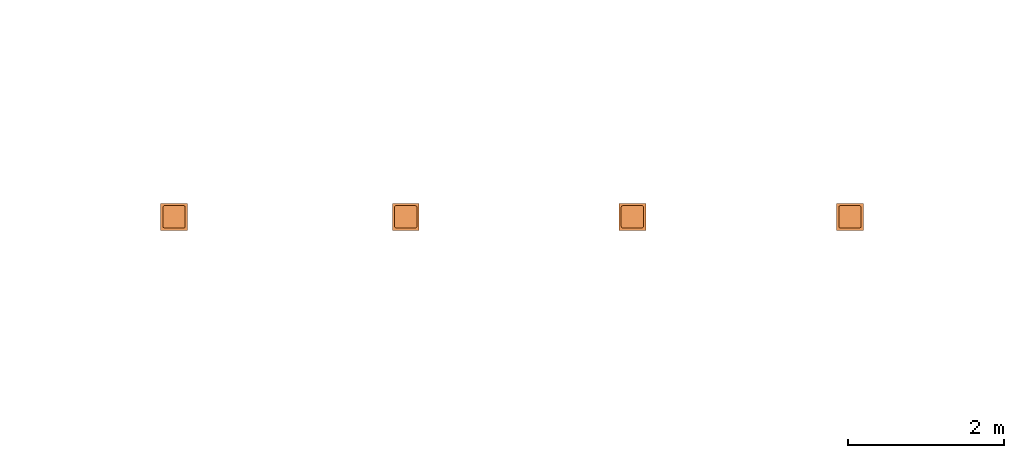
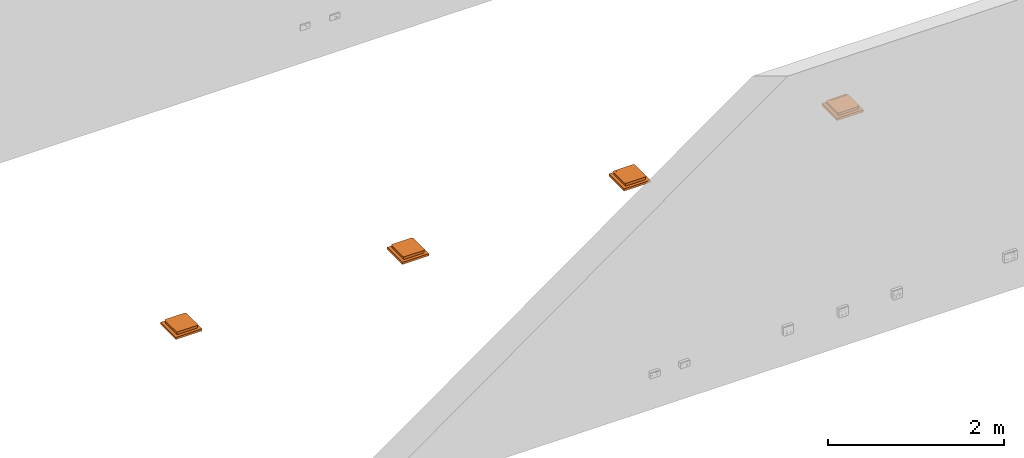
# One storey, part 73 of 197: 4 proxies.
"""IFC2X3 building model written with IfcOpenShell, lengths in metres."""

import ifcopenshell
import ifcopenshell.guid

model = None  # the IFC model being written
_history = None  # IfcOwnerHistory: only IFC2X3 demands one
_inside = {}  # id of a spatial element -> (the spatial element, [elements in it])
_under = {}  # id of a project, library or spatial element -> (it, [spatial elements below it])
_declared = {}  # id of a project -> (the project, [libraries it declares])
_typed = {}  # id of a type object -> (the type object, [elements of that type])
_made_of = {}  # id of a material, layer set ... -> (it, [elements and type objects made of it])


def new_model(schema):
    """Start an empty IFC model of exactly this schema.

    Asked for "IFC4X3", IfcOpenShell would pick the latest addendum, in which some entities
    have other attributes; the version numbers below select the first issue.
    IFC2X3 requires an IfcOwnerHistory on every rooted entity: one is made here for all.
    """
    global model, _history
    if schema == "IFC4X3":
        model = ifcopenshell.file(schema_version=(4, 3, 0, 0))
    else:
        model = ifcopenshell.file(schema=schema)
    _inside.clear()
    _under.clear()
    _declared.clear()
    _typed.clear()
    _made_of.clear()
    _history = None
    if model.schema == "IFC2X3":
        org = make("IfcOrganization", Name="unknown")
        user = make(
            "IfcPersonAndOrganization",
            ThePerson=make("IfcPerson", FamilyName="unknown"),
            TheOrganization=org,
        )
        app = make(
            "IfcApplication",
            ApplicationDeveloper=org,
            Version="unknown",
            ApplicationFullName="unknown",
            ApplicationIdentifier="unknown",
        )
        _history = make(
            "IfcOwnerHistory",
            OwningUser=user,
            OwningApplication=app,
            ChangeAction="ADDED",
            CreationDate=0,
        )
    return model


def make(cls, **values):
    """One entity of the class cls with the attributes given. An attribute that is None is left unset."""
    return model.create_entity(
        cls, **{name: value for name, value in values.items() if value is not None}
    )


def entity(cls, *values):
    """Any entity or typed value of the class cls, its attributes in the order of the schema. None: left unset."""
    e = model.create_entity(cls)
    for i, value in enumerate(values):
        if value is not None:
            e[i] = value
    return e


def rooted(cls, **values):
    """An entity with a GlobalId (a new one), such as an element, a storey or a relation."""
    return make(cls, GlobalId=ifcopenshell.guid.new(), OwnerHistory=_history, **values)


def si_unit(unit_type, name, prefix=None):
    """IfcSIUnit, for example si_unit("LENGTHUNIT", "METRE", prefix="MILLI")."""
    return make("IfcSIUnit", UnitType=unit_type, Prefix=prefix, Name=name)


def converted_unit(unit_type, name, factor, base, dimensions=None, offset=None):
    """IfcConversionBasedUnit, such as the inch: factor (a typed value) times the base unit."""
    return make(
        "IfcConversionBasedUnit"
        if offset is None
        else "IfcConversionBasedUnitWithOffset",
        ConversionOffset=offset,
        Dimensions=None
        if dimensions is None
        else entity("IfcDimensionalExponents", *dimensions),
        UnitType=unit_type,
        Name=name,
        ConversionFactor=make(
            "IfcMeasureWithUnit", ValueComponent=factor, UnitComponent=base
        ),
    )


def assignment(units):
    """IfcUnitAssignment: the units of a project."""
    return None if units is None else make("IfcUnitAssignment", Units=units)


def point(xyz):
    """IfcCartesianPoint."""
    return None if xyz is None else make("IfcCartesianPoint", Coordinates=xyz)


def direction(xyz):
    """IfcDirection."""
    return None if xyz is None else make("IfcDirection", DirectionRatios=xyz)


def frame(location, z_axis=None, x_axis=None):
    """IfcAxis2Placement3D, a coordinate frame: its origin and axes. An axis left out is left unset."""
    return make(
        "IfcAxis2Placement3D",
        Location=point(location),
        Axis=direction(z_axis),
        RefDirection=direction(x_axis),
    )


def frame_2d(location, x_axis=None):
    """IfcAxis2Placement2D, a coordinate frame in the plane: its origin and x axis."""
    return make(
        "IfcAxis2Placement2D", Location=point(location), RefDirection=direction(x_axis)
    )


def origin():
    """The frame at (0, 0, 0) with its axes left unset."""
    return frame((0.0, 0.0, 0.0))


def place(relative_to, where):
    """IfcLocalPlacement: puts the frame where relative to a parent placement (None: the world)."""
    return make(
        "IfcLocalPlacement", PlacementRelTo=relative_to, RelativePlacement=where
    )


def context(
    kind, dimensions, precision=None, world=None, true_north=None, identifier=None
):
    """IfcGeometricRepresentationContext, for example the 3D "Model" context."""
    return make(
        "IfcGeometricRepresentationContext",
        ContextIdentifier=identifier,
        ContextType=kind,
        CoordinateSpaceDimension=dimensions,
        Precision=precision,
        WorldCoordinateSystem=world,
        TrueNorth=true_north,
    )


def subcontext(parent, identifier, kind, view, scale=None):
    """IfcGeometricRepresentationSubContext, for example "Body" below "Model"."""
    return make(
        "IfcGeometricRepresentationSubContext",
        ContextIdentifier=identifier,
        ContextType=kind,
        ParentContext=parent,
        TargetScale=scale,
        TargetView=view,
    )


def project(units=None, contexts=None):
    """IfcProject with its units and contexts."""
    return rooted(
        "IfcProject",
        Name="project",
        RepresentationContexts=contexts,
        UnitsInContext=assignment(units),
    )


def spatial(cls, under=None, at=None, **own):
    """A site, building, storey or space (cls), placed at a placement, below another one or the project."""
    s = rooted(cls, ObjectPlacement=at, **own)
    if under is not None:
        _under.setdefault(under.id(), (under, []))[1].append(s)
    return s


def polyline(points):
    """IfcPolyline through the points."""
    return make("IfcPolyline", Points=[point(p) for p in points])


def circle_curve(where, radius):
    """IfcCircle in the frame where."""
    return make("IfcCircle", Position=where, Radius=radius)


def parameter(value):
    """IfcParameterValue: where a trimmed curve begins or ends, as a parameter of its basis curve."""
    return model.create_entity("IfcParameterValue", value)


def trimmed(basis, trim1, trim2, sense, master):
    """IfcTrimmedCurve: the piece of a basis curve between two trims."""
    return make(
        "IfcTrimmedCurve",
        BasisCurve=basis,
        Trim1=trim1,
        Trim2=trim2,
        SenseAgreement=sense,
        MasterRepresentation=master,
    )


def segment(curve, same_sense, transition):
    """IfcCompositeCurveSegment."""
    return make(
        "IfcCompositeCurveSegment",
        Transition=transition,
        SameSense=same_sense,
        ParentCurve=curve,
    )


def composite_curve(segments, self_intersect=None):
    """IfcCompositeCurve: segments joined end to end."""
    return make("IfcCompositeCurve", Segments=segments, SelfIntersect=self_intersect)


def profile(cls, at=None, kind="AREA", **sizes):
    """A parametric profile (cls). Its sizes go by their IFC names, for example OverallWidth=200.0."""
    return make(cls, ProfileType=kind, Position=at, **sizes)


def rectangle(**sizes):
    """IfcRectangleProfileDef."""
    return profile("IfcRectangleProfileDef", **sizes)


def outline(outer, holes=None, kind="AREA"):
    """IfcArbitraryClosedProfileDef: a profile drawn as a closed curve; with holes, ...WithVoids."""
    if holes is None:
        return make("IfcArbitraryClosedProfileDef", ProfileType=kind, OuterCurve=outer)
    return make(
        "IfcArbitraryProfileDefWithVoids",
        ProfileType=kind,
        OuterCurve=outer,
        InnerCurves=holes,
    )


def extrude(swept, where, along, depth):
    """IfcExtrudedAreaSolid: the profile swept, set in the frame where, extruded along a direction by depth."""
    return make(
        "IfcExtrudedAreaSolid",
        SweptArea=swept,
        Position=where,
        ExtrudedDirection=direction(along),
        Depth=depth,
    )


def shape(context_of_items, identifier, shape_type, items):
    """IfcShapeRepresentation: the items that make up one representation, for example the "Body"."""
    return make(
        "IfcShapeRepresentation",
        ContextOfItems=context_of_items,
        RepresentationIdentifier=identifier,
        RepresentationType=shape_type,
        Items=items,
    )


def source(mapping_origin, context_of_items, identifier, shape_type, items):
    """IfcRepresentationMap: a shape defined once, which mapped items show again and again."""
    return make(
        "IfcRepresentationMap",
        MappingOrigin=mapping_origin,
        MappedRepresentation=shape(context_of_items, identifier, shape_type, items),
    )


def transform(
    local_origin,
    x_axis=None,
    y_axis=None,
    z_axis=None,
    scale=None,
    scale2=None,
    scale3=None,
    uniform=True,
):
    """IfcCartesianTransformationOperator3D, or its non-uniform kind. x_axis, y_axis, z_axis: its Axis1, 2, 3."""
    if uniform:
        return make(
            "IfcCartesianTransformationOperator3D",
            Axis1=direction(x_axis),
            Axis2=direction(y_axis),
            LocalOrigin=point(local_origin),
            Scale=scale,
            Axis3=direction(z_axis),
        )
    return make(
        "IfcCartesianTransformationOperator3DnonUniform",
        Axis1=direction(x_axis),
        Axis2=direction(y_axis),
        LocalOrigin=point(local_origin),
        Scale=scale,
        Axis3=direction(z_axis),
        Scale2=scale2,
        Scale3=scale3,
    )


def mapped(mapping_source, mapping_target):
    """IfcMappedItem: shows the shape of a source again, moved by a transform."""
    return make(
        "IfcMappedItem", MappingSource=mapping_source, MappingTarget=mapping_target
    )


def material(Name=None, Category=None):
    """IfcMaterial."""
    return make("IfcMaterial", Name=Name, Category=Category)


def material_list(materials):
    """IfcMaterialList."""
    return make("IfcMaterialList", Materials=materials)


def made_of(thing, what):
    """Note that an element or type object is made of a material, layer set ...; save() writes the relation."""
    if what is not None:
        _made_of.setdefault(what.id(), (what, []))[1].append(thing)
    return thing


def type_object(cls, material=None, **own):
    """A type object (cls), such as IfcWallType, which elements share."""
    return made_of(rooted(cls, **own), material)


def type_shapes(of_type, sources):
    """Give a type object the sources (RepresentationMaps) that its elements show as mapped items."""
    of_type.RepresentationMaps = sources


def element(
    cls,
    number,
    at=None,
    inside=None,
    cuts=None,
    type_object=None,
    material=None,
    context=None,
    identifier="Body",
    shape_type=None,
    held_by="IfcProductDefinitionShape",
    body=None,
    shapes=None,
    **own,
):
    """One element of the class cls, such as IfcWall. Its Tag is "e" and its number.

    at: its placement. inside: the storey or other place that contains it. cuts: it is an
    opening in that element (IfcRelVoidsElement). A single representation is given by context,
    identifier, shape_type and body (its items); several are given by shapes. held_by: the class
    of the entity that holds the representations. save() writes the other relations.
    """
    e = rooted(cls, Tag="e%d" % number, ObjectPlacement=at, **own)
    if body is not None:
        shapes = [shape(context, identifier, shape_type, body)]
    if shapes is not None:
        e.Representation = make(held_by, Representations=shapes)
    if inside is not None:
        _inside.setdefault(inside.id(), (inside, []))[1].append(e)
    if cuts is not None:
        rooted(
            "IfcRelVoidsElement", RelatingBuildingElement=cuts, RelatedOpeningElement=e
        )
    if type_object is not None:
        _typed.setdefault(type_object.id(), (type_object, []))[1].append(e)
    return made_of(e, material)


def aggregate(whole, parts):
    """IfcRelAggregates: a whole, such as a stair, and the parts it consists of."""
    return rooted("IfcRelAggregates", RelatingObject=whole, RelatedObjects=parts)


def save(model, path):
    """Write the relations noted so far, then the file.

    IfcRelAggregates (storeys below a building ...), IfcRelContainedInSpatialStructure (elements
    in a storey), IfcRelDefinesByType, IfcRelAssociatesMaterial and IfcRelDeclares: one each for
    every whole, place, type object, material and project.
    """
    for whole, parts in _under.values():
        aggregate(whole, parts)
    for where, things in _inside.values():
        rooted(
            "IfcRelContainedInSpatialStructure",
            RelatedElements=things,
            RelatingStructure=where,
        )
    for kind, things in _typed.values():
        rooted("IfcRelDefinesByType", RelatedObjects=things, RelatingType=kind)
    for what, things in _made_of.values():
        rooted("IfcRelAssociatesMaterial", RelatedObjects=things, RelatingMaterial=what)
    for by, libraries in _declared.values():
        rooted("IfcRelDeclares", RelatingContext=by, RelatedDefinitions=libraries)
    model.write(path)


model = new_model("IFC2X3")

# Units and contexts
model_context = context("Model", 3, precision=1e-05, world=origin(), true_north=direction((6.123031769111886e-17, 1.0)))
body_context = subcontext(model_context, "Body", "Model", "MODEL_VIEW")
ifc_project = project(units=[si_unit("LENGTHUNIT", "METRE"), converted_unit("PLANEANGLEUNIT", "DEGREE", entity("IfcPlaneAngleMeasure", 0.017453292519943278), si_unit("PLANEANGLEUNIT", "RADIAN"), dimensions=[0, 0, 0, 0, 0, 0, 0]), si_unit("AREAUNIT", "SQUARE_METRE")], contexts=[model_context])

# Site, building, storey
site_placement = place(None, origin())
site = spatial("IfcSite", under=ifc_project, at=site_placement, Name="Default", CompositionType="ELEMENT")
building_placement = place(site_placement, origin())
building = spatial("IfcBuilding", under=site, at=building_placement, CompositionType="ELEMENT")
storey_placement = place(building_placement, origin())
storey = spatial("IfcBuildingStorey", under=building, at=storey_placement, Name="Niveau 0", CompositionType="ELEMENT", Elevation=0.0)

# Proxies
ifc_material_1 = material(Name="<Unnamed>")
ifc_material_2 = material(Name="Legrand - Inox")
ifc_material_list = material_list([ifc_material_1, ifc_material_2])
building_element_proxy_type_1 = type_object("IfcBuildingElementProxyType", Name="Boitier sol 4x4 modules:4PCN+4PCO+4RJ+1HDMI+1USB", PredefinedType="NOTDEFINED", material=ifc_material_list)
shared_shape_1 = source(origin(), body_context, "Body", "SweptSolid", [
    extrude(rectangle(XDim=0.34600000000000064, YDim=0.3460000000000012, at=frame_2d((0.0, 1.3877787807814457e-17), x_axis=(1.0, 0.0))), frame((0.0, 0.0, -0.07030000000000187), z_axis=(0.0, 0.0, 1.0), x_axis=(-1.0, 0.0, 0.0)), (0.0, 0.0, 1.0), 0.03150000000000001),
    extrude(rectangle(XDim=0.266000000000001, YDim=0.26600000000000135, at=frame_2d((1.3877787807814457e-17, 0.0), x_axis=(1.0, 0.0))), frame((0.0, 0.0, -0.03880000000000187), z_axis=(0.0, 0.0, 1.0), x_axis=(-1.0, 0.0, 0.0)), (0.0, 0.0, 1.0), 0.03880000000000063),
    extrude(outline(composite_curve([segment(polyline([(-0.12219999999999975, -0.143), (0.12220000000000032, -0.143)]), True, "CONTINUOUS"), segment(trimmed(circle_curve(frame_2d((0.12220000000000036, -0.12219999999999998), x_axis=(-1.0, 0.0)), 0.0208), [parameter(89.99999999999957)], [parameter(179.99999999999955)], True, "PARAMETER"), True, "CONTINUOUS"), segment(polyline([(0.14300000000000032, -0.1221999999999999), (0.14299999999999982, 0.12219999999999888)]), True, "CONTINUOUS"), segment(trimmed(circle_curve(frame_2d((0.12219999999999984, 0.12219999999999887), x_axis=(-1.0, 0.0)), 0.0208), [parameter(179.99999999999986)], [parameter(269.99999999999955)], True, "PARAMETER"), True, "CONTINUOUS"), segment(polyline([(0.12219999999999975, 0.14299999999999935), (-0.12220000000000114, 0.14300000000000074)]), True, "CONTINUOUS"), segment(trimmed(circle_curve(frame_2d((-0.12220000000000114, 0.12220000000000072), x_axis=(-1.0, 0.0)), 0.0208), [parameter(269.99999999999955)], [parameter(359.99999999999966)], True, "PARAMETER"), True, "CONTINUOUS"), segment(polyline([(-0.1429999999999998, 0.12220000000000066), (-0.14299999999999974, -0.12219999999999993)]), True, "CONTINUOUS"), segment(trimmed(circle_curve(frame_2d((-0.12219999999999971, -0.12219999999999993), x_axis=(-1.0, 0.0)), 0.0208), [parameter(359.99999999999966)], [parameter(89.99999999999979)], True, "PARAMETER"), True, "CONTINUOUS")], self_intersect=False), holes=[polyline([(-0.12199999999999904, -0.12200000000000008), (-0.12199999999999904, 0.08100000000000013), (0.12200000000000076, 0.08100000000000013), (0.12200000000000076, -0.12200000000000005), (-0.12199999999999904, -0.12200000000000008)])]), frame((0.0, 0.0, 0.0), z_axis=(0.0, 0.0, 1.0), x_axis=(-1.0, 0.0, 0.0)), (0.0, 0.0, 1.0), 0.004499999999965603),
    extrude(rectangle(XDim=0.24399999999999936, YDim=0.20300000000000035, at=frame_2d((-6.938893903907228e-18, 0.0), x_axis=(1.0, 0.0))), frame((0.0, 0.020499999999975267, 0.0), z_axis=(0.0, 0.0, 1.0), x_axis=(-1.0, 0.0, 0.0)), (0.0, 0.0, 1.0), 0.0040000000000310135),
])
type_shapes(building_element_proxy_type_1, [shared_shape_1])
proxy_1_placement = place(storey_placement, frame((-390.9814485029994, 93.55254659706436, 0.0)))
element("IfcBuildingElementProxy", 1, at=proxy_1_placement, inside=storey, type_object=building_element_proxy_type_1, material=ifc_material_list, Name="Boitier sol 4x4 modules:4PCN+4PCO+4RJ+1HDMI+1USB", ObjectType="Boitier sol 4x4 modules:4PCN+4PCO+4RJ+1HDMI+1USB", context=body_context, shape_type="MappedRepresentation", body=[
    mapped(shared_shape_1, transform((0.0, 0.0, 0.0), scale=1.0)),
])
building_element_proxy_type_2 = type_object("IfcBuildingElementProxyType", Name="Boitier sol 4x4 modules:4PCN+4PCO+4RJ+2HDMI", PredefinedType="NOTDEFINED", material=ifc_material_list)
shared_shape_2 = source(origin(), body_context, "Body", "SweptSolid", [
    extrude(rectangle(XDim=0.34600000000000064, YDim=0.3460000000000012, at=frame_2d((0.0, 1.3877787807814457e-17), x_axis=(1.0, 0.0))), frame((0.0, 0.0, -0.07030000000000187), z_axis=(0.0, 0.0, 1.0), x_axis=(-1.0, 0.0, 0.0)), (0.0, 0.0, 1.0), 0.03150000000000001),
    extrude(rectangle(XDim=0.266000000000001, YDim=0.26600000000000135, at=frame_2d((1.3877787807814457e-17, 0.0), x_axis=(1.0, 0.0))), frame((0.0, 0.0, -0.03880000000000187), z_axis=(0.0, 0.0, 1.0), x_axis=(-1.0, 0.0, 0.0)), (0.0, 0.0, 1.0), 0.03880000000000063),
    extrude(outline(composite_curve([segment(polyline([(-0.12219999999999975, -0.143), (0.12220000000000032, -0.143)]), True, "CONTINUOUS"), segment(trimmed(circle_curve(frame_2d((0.12220000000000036, -0.12219999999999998), x_axis=(-1.0, 0.0)), 0.0208), [parameter(89.99999999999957)], [parameter(179.99999999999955)], True, "PARAMETER"), True, "CONTINUOUS"), segment(polyline([(0.14300000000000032, -0.1221999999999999), (0.14299999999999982, 0.12219999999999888)]), True, "CONTINUOUS"), segment(trimmed(circle_curve(frame_2d((0.12219999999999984, 0.12219999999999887), x_axis=(-1.0, 0.0)), 0.0208), [parameter(179.99999999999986)], [parameter(269.99999999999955)], True, "PARAMETER"), True, "CONTINUOUS"), segment(polyline([(0.12219999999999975, 0.14299999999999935), (-0.12220000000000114, 0.14300000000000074)]), True, "CONTINUOUS"), segment(trimmed(circle_curve(frame_2d((-0.12220000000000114, 0.12220000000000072), x_axis=(-1.0, 0.0)), 0.0208), [parameter(269.99999999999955)], [parameter(359.99999999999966)], True, "PARAMETER"), True, "CONTINUOUS"), segment(polyline([(-0.1429999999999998, 0.12220000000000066), (-0.14299999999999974, -0.12219999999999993)]), True, "CONTINUOUS"), segment(trimmed(circle_curve(frame_2d((-0.12219999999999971, -0.12219999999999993), x_axis=(-1.0, 0.0)), 0.0208), [parameter(359.99999999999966)], [parameter(89.99999999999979)], True, "PARAMETER"), True, "CONTINUOUS")], self_intersect=False), holes=[polyline([(-0.12199999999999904, -0.12200000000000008), (-0.12199999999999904, 0.08100000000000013), (0.12200000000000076, 0.08100000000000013), (0.12200000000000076, -0.12200000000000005), (-0.12199999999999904, -0.12200000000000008)])]), frame((0.0, 0.0, 0.0), z_axis=(0.0, 0.0, 1.0), x_axis=(-1.0, 0.0, 0.0)), (0.0, 0.0, 1.0), 0.004499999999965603),
    extrude(rectangle(XDim=0.24399999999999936, YDim=0.20300000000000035, at=frame_2d((-6.938893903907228e-18, 0.0), x_axis=(1.0, 0.0))), frame((0.0, 0.020499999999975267, 0.0), z_axis=(0.0, 0.0, 1.0), x_axis=(-1.0, 0.0, 0.0)), (0.0, 0.0, 1.0), 0.0040000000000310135),
])
type_shapes(building_element_proxy_type_2, [shared_shape_2])
proxy_2_placement = place(storey_placement, frame((-388.0054485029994, 93.55254659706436, 0.0)))
element("IfcBuildingElementProxy", 2, at=proxy_2_placement, inside=storey, type_object=building_element_proxy_type_2, material=ifc_material_list, Name="Boitier sol 4x4 modules:4PCN+4PCO+4RJ+2HDMI", ObjectType="Boitier sol 4x4 modules:4PCN+4PCO+4RJ+2HDMI", context=body_context, shape_type="MappedRepresentation", body=[
    mapped(shared_shape_2, transform((0.0, 0.0, 0.0), scale=1.0)),
])
building_element_proxy_type_3 = type_object("IfcBuildingElementProxyType", Name="Boitier sol 4x4 modules:4PCN+4PCO+4RJ+2HDMI+2USB", PredefinedType="NOTDEFINED", material=ifc_material_list)
shared_shape_3 = source(origin(), body_context, "Body", "SweptSolid", [
    extrude(rectangle(XDim=0.34600000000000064, YDim=0.3460000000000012, at=frame_2d((0.0, 1.3877787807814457e-17), x_axis=(1.0, 0.0))), frame((0.0, 0.0, -0.07030000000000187), z_axis=(0.0, 0.0, 1.0), x_axis=(-1.0, 0.0, 0.0)), (0.0, 0.0, 1.0), 0.03150000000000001),
    extrude(rectangle(XDim=0.266000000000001, YDim=0.26600000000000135, at=frame_2d((1.3877787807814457e-17, 0.0), x_axis=(1.0, 0.0))), frame((0.0, 0.0, -0.03880000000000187), z_axis=(0.0, 0.0, 1.0), x_axis=(-1.0, 0.0, 0.0)), (0.0, 0.0, 1.0), 0.03880000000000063),
    extrude(outline(composite_curve([segment(polyline([(-0.12219999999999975, -0.143), (0.12220000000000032, -0.143)]), True, "CONTINUOUS"), segment(trimmed(circle_curve(frame_2d((0.12220000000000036, -0.12219999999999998), x_axis=(-1.0, 0.0)), 0.0208), [parameter(89.99999999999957)], [parameter(179.99999999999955)], True, "PARAMETER"), True, "CONTINUOUS"), segment(polyline([(0.14300000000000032, -0.1221999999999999), (0.14299999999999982, 0.12219999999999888)]), True, "CONTINUOUS"), segment(trimmed(circle_curve(frame_2d((0.12219999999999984, 0.12219999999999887), x_axis=(-1.0, 0.0)), 0.0208), [parameter(179.99999999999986)], [parameter(269.99999999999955)], True, "PARAMETER"), True, "CONTINUOUS"), segment(polyline([(0.12219999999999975, 0.14299999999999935), (-0.12220000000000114, 0.14300000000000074)]), True, "CONTINUOUS"), segment(trimmed(circle_curve(frame_2d((-0.12220000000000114, 0.12220000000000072), x_axis=(-1.0, 0.0)), 0.0208), [parameter(269.99999999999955)], [parameter(359.99999999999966)], True, "PARAMETER"), True, "CONTINUOUS"), segment(polyline([(-0.1429999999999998, 0.12220000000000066), (-0.14299999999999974, -0.12219999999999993)]), True, "CONTINUOUS"), segment(trimmed(circle_curve(frame_2d((-0.12219999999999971, -0.12219999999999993), x_axis=(-1.0, 0.0)), 0.0208), [parameter(359.99999999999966)], [parameter(89.99999999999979)], True, "PARAMETER"), True, "CONTINUOUS")], self_intersect=False), holes=[polyline([(-0.12199999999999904, -0.12200000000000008), (-0.12199999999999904, 0.08100000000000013), (0.12200000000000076, 0.08100000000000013), (0.12200000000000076, -0.12200000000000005), (-0.12199999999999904, -0.12200000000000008)])]), frame((0.0, 0.0, 0.0), z_axis=(0.0, 0.0, 1.0), x_axis=(-1.0, 0.0, 0.0)), (0.0, 0.0, 1.0), 0.004499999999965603),
    extrude(rectangle(XDim=0.24399999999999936, YDim=0.20300000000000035, at=frame_2d((-6.938893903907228e-18, 0.0), x_axis=(1.0, 0.0))), frame((0.0, 0.020499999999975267, 0.0), z_axis=(0.0, 0.0, 1.0), x_axis=(-1.0, 0.0, 0.0)), (0.0, 0.0, 1.0), 0.0040000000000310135),
])
type_shapes(building_element_proxy_type_3, [shared_shape_3])
proxy_3_placement = place(storey_placement, frame((-385.09444850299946, 93.55254659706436, 0.0)))
element("IfcBuildingElementProxy", 3, at=proxy_3_placement, inside=storey, type_object=building_element_proxy_type_3, material=ifc_material_list, Name="Boitier sol 4x4 modules:4PCN+4PCO+4RJ+2HDMI+2USB", ObjectType="Boitier sol 4x4 modules:4PCN+4PCO+4RJ+2HDMI+2USB", context=body_context, shape_type="MappedRepresentation", body=[
    mapped(shared_shape_3, transform((0.0, 0.0, 0.0), scale=1.0)),
])
building_element_proxy_type_4 = type_object("IfcBuildingElementProxyType", Name="Boitier sol 4x4 modules:4PCN+4PCO+4RJ+2USB", PredefinedType="NOTDEFINED", material=ifc_material_list)
shared_shape_4 = source(origin(), body_context, "Body", "SweptSolid", [
    extrude(rectangle(XDim=0.34600000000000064, YDim=0.3460000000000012, at=frame_2d((0.0, 1.3877787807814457e-17), x_axis=(1.0, 0.0))), frame((0.0, 0.0, -0.07030000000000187), z_axis=(0.0, 0.0, 1.0), x_axis=(-1.0, 0.0, 0.0)), (0.0, 0.0, 1.0), 0.03150000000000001),
    extrude(rectangle(XDim=0.266000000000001, YDim=0.26600000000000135, at=frame_2d((1.3877787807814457e-17, 0.0), x_axis=(1.0, 0.0))), frame((0.0, 0.0, -0.03880000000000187), z_axis=(0.0, 0.0, 1.0), x_axis=(-1.0, 0.0, 0.0)), (0.0, 0.0, 1.0), 0.03880000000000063),
    extrude(outline(composite_curve([segment(polyline([(-0.12219999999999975, -0.143), (0.12220000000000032, -0.143)]), True, "CONTINUOUS"), segment(trimmed(circle_curve(frame_2d((0.12220000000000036, -0.12219999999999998), x_axis=(-1.0, 0.0)), 0.0208), [parameter(89.99999999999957)], [parameter(179.99999999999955)], True, "PARAMETER"), True, "CONTINUOUS"), segment(polyline([(0.14300000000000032, -0.1221999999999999), (0.14299999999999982, 0.12219999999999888)]), True, "CONTINUOUS"), segment(trimmed(circle_curve(frame_2d((0.12219999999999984, 0.12219999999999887), x_axis=(-1.0, 0.0)), 0.0208), [parameter(179.99999999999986)], [parameter(269.99999999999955)], True, "PARAMETER"), True, "CONTINUOUS"), segment(polyline([(0.12219999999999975, 0.14299999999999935), (-0.12220000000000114, 0.14300000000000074)]), True, "CONTINUOUS"), segment(trimmed(circle_curve(frame_2d((-0.12220000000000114, 0.12220000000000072), x_axis=(-1.0, 0.0)), 0.0208), [parameter(269.99999999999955)], [parameter(359.99999999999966)], True, "PARAMETER"), True, "CONTINUOUS"), segment(polyline([(-0.1429999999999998, 0.12220000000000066), (-0.14299999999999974, -0.12219999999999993)]), True, "CONTINUOUS"), segment(trimmed(circle_curve(frame_2d((-0.12219999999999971, -0.12219999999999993), x_axis=(-1.0, 0.0)), 0.0208), [parameter(359.99999999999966)], [parameter(89.99999999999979)], True, "PARAMETER"), True, "CONTINUOUS")], self_intersect=False), holes=[polyline([(-0.12199999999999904, -0.12200000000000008), (-0.12199999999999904, 0.08100000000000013), (0.12200000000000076, 0.08100000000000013), (0.12200000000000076, -0.12200000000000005), (-0.12199999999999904, -0.12200000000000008)])]), frame((0.0, 0.0, 0.0), z_axis=(0.0, 0.0, 1.0), x_axis=(-1.0, 0.0, 0.0)), (0.0, 0.0, 1.0), 0.004499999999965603),
    extrude(rectangle(XDim=0.24399999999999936, YDim=0.20300000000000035, at=frame_2d((-6.938893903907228e-18, 0.0), x_axis=(1.0, 0.0))), frame((0.0, 0.020499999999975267, 0.0), z_axis=(0.0, 0.0, 1.0), x_axis=(-1.0, 0.0, 0.0)), (0.0, 0.0, 1.0), 0.0040000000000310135),
])
type_shapes(building_element_proxy_type_4, [shared_shape_4])
proxy_4_placement = place(storey_placement, frame((-382.2994485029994, 93.55254659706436, 0.0)))
element("IfcBuildingElementProxy", 4, at=proxy_4_placement, inside=storey, type_object=building_element_proxy_type_4, material=ifc_material_list, Name="Boitier sol 4x4 modules:4PCN+4PCO+4RJ+2USB", ObjectType="Boitier sol 4x4 modules:4PCN+4PCO+4RJ+2USB", context=body_context, shape_type="MappedRepresentation", body=[
    mapped(shared_shape_4, transform((0.0, 0.0, 0.0), scale=1.0)),
])

save(model, "model.ifc")
